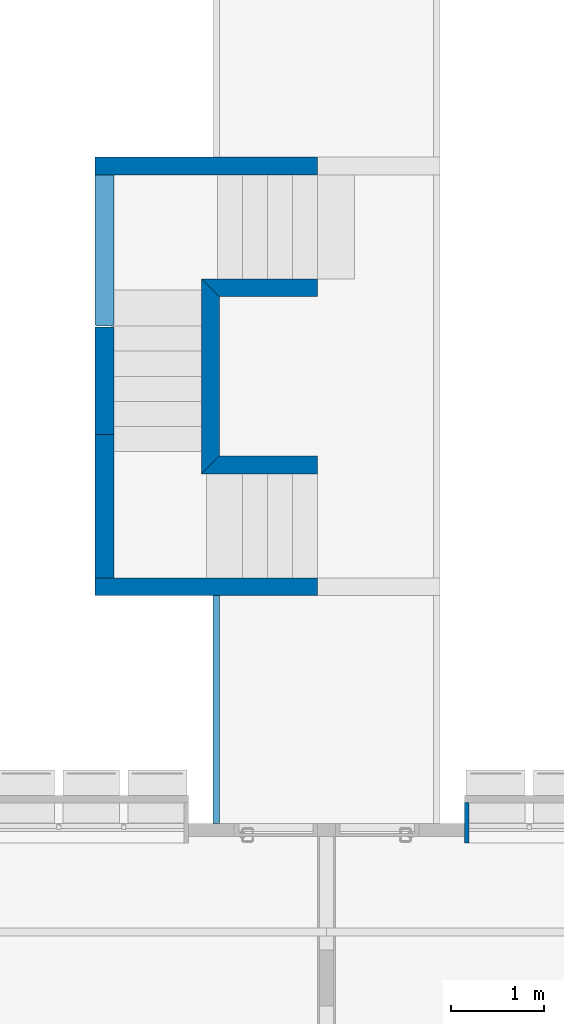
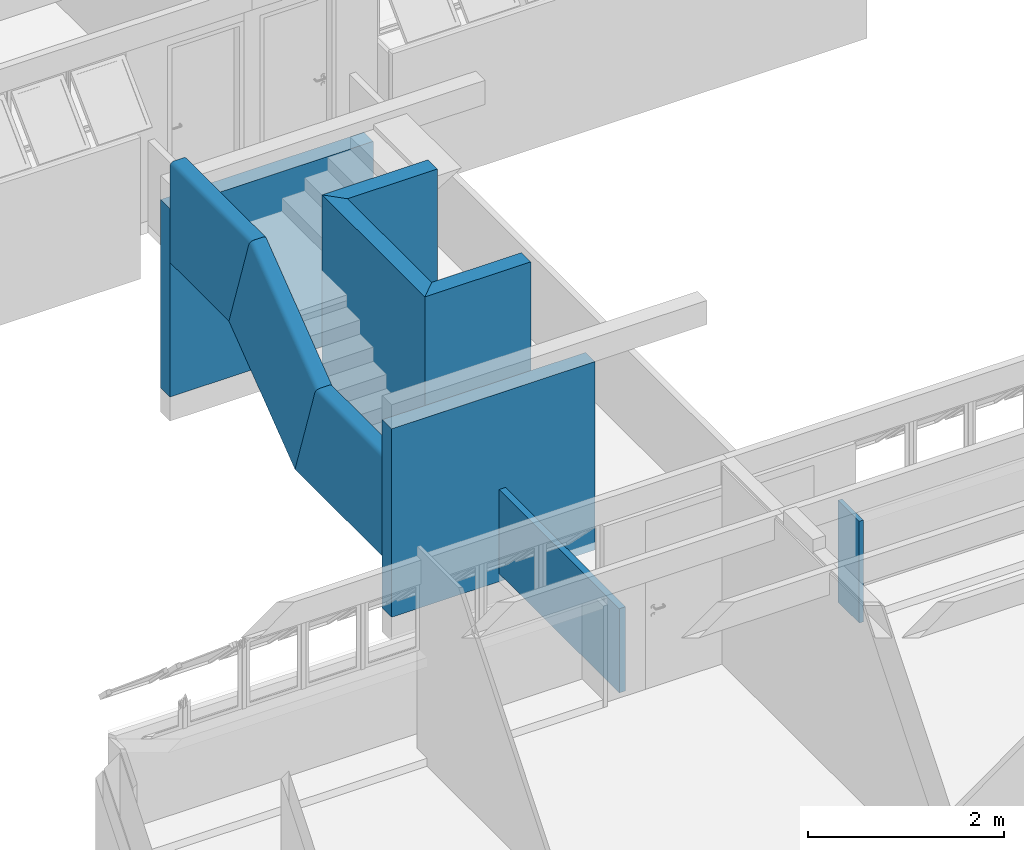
# One storey, part 28 of 40: 10 walls, 1 element without a shape of its own.
"""IFC4 building model written with IfcOpenShell, lengths in millimetres."""

from ifc_helpers import new_model, entity, si_unit, converted_unit, derived_unit, direction, frame, origin_with_axes, place, context, subcontext, project, spatial, line, indexed_curve, outline, extrude, polygons, source, transform, mapped, material, layer, layer_set, layer_usage, type_object, element, aggregate, save


model = new_model("IFC4")

# Units and contexts
model_context = context("Model", 3, precision=0.01, world=origin_with_axes(), true_north=direction((0.0, 1.0)))
body_context = subcontext(model_context, "Body", "Model", "MODEL_VIEW")
ifc_project = project(units=[si_unit("LENGTHUNIT", "METRE", prefix="MILLI"), si_unit("AREAUNIT", "SQUARE_METRE"), si_unit("VOLUMEUNIT", "CUBIC_METRE"), converted_unit("PLANEANGLEUNIT", "DEGREE", entity("IfcPlaneAngleMeasure", 0.0174532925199), si_unit("PLANEANGLEUNIT", "RADIAN"), dimensions=[0, 0, 0, 0, 0, 0, 0]), converted_unit("TIMEUNIT", "Year", entity("IfcTimeMeasure", 31556926.0), si_unit("TIMEUNIT", "SECOND"), dimensions=[0, 0, 1, 0, 0, 0, 0]), si_unit("MASSUNIT", "GRAM", prefix="KILO"), si_unit("THERMODYNAMICTEMPERATUREUNIT", "DEGREE_CELSIUS"), si_unit("LUMINOUSINTENSITYUNIT", "LUMEN"), si_unit("ENERGYUNIT", "JOULE", prefix="MEGA"), derived_unit("THERMALCONDUCTANCEUNIT", [(si_unit("POWERUNIT", "WATT"), 1), (si_unit("LENGTHUNIT", "METRE"), -1), (si_unit("THERMODYNAMICTEMPERATUREUNIT", "KELVIN"), -1)]), derived_unit("SPECIFICHEATCAPACITYUNIT", [(si_unit("ENERGYUNIT", "JOULE"), 1), (si_unit("MASSUNIT", "GRAM", prefix="KILO"), -1), (si_unit("THERMODYNAMICTEMPERATUREUNIT", "KELVIN"), -1)]), derived_unit("MASSDENSITYUNIT", [(si_unit("MASSUNIT", "GRAM", prefix="KILO"), 1), (si_unit("VOLUMEUNIT", "CUBIC_METRE"), -1)])], contexts=[model_context])

# Site, building, storey
site_placement = place(None, origin_with_axes())
site = spatial("IfcSite", under=ifc_project, at=site_placement, Name="Local", CompositionType="ELEMENT")
building_placement = place(site_placement, origin_with_axes())
building = spatial("IfcBuilding", under=site, at=building_placement, Name="Construção", CompositionType="ELEMENT")
storey_placement = place(building_placement, origin_with_axes())
storey = spatial("IfcBuildingStorey", under=building, at=storey_placement, Name="Primeiro Pavimento", CompositionType="ELEMENT", Elevation=0.0)

# Walls
ifc_material_1 = material(Name="GENÉRICO - VEDAÇÃO EXTERNA")
ifc_layer_1 = layer(ifc_material_1, 190.0, ventilated="UNKNOWN", Name="GENÉRICO - VEDAÇÃO EXTERNA")
ifc_layer_set_1 = layer_set([ifc_layer_1], Name="GENÉRICO - VEDAÇÃO EXTERNA 190")
ifc_layer_usage_1 = layer_usage(ifc_layer_set_1, "AXIS2", "NEGATIVE", 0.0)
wall_type_1 = type_object("IfcWallType", Name="GENÉRICO - VEDAÇÃO EXTERNA 190", PredefinedType="NOTDEFINED")
wall_1_placement = place(storey_placement, frame((4890.0, 10910.0, -150.0), z_axis=(0.0, 0.0, 1.0), x_axis=(1.0, 0.0, 0.0)))
element("IfcWall", 1, at=wall_1_placement, inside=storey, type_object=wall_type_1, material=ifc_layer_usage_1, Name="CIRC1-PAREDE-021", PredefinedType="NOTDEFINED", context=body_context, shape_type="SweptSolid", body=[
    extrude(outline(indexed_curve([(0.0, -190.0), (2400.0, -190.0), (2400.0, 0.0), (0.0, 0.0)], segments=[line(1, 2, 3, 4, 1)])), origin_with_axes(), (0.0, 0.0, 1.0), 2350.0),
])
ifc_layer_usage_2 = layer_usage(ifc_layer_set_1, "AXIS2", "NEGATIVE", 0.0)
wall_2_placement = place(storey_placement, frame((4890.0, 15440.0, -150.0), z_axis=(0.0, 0.0, 1.0), x_axis=(1.0, 0.0, 0.0)))
element("IfcWall", 2, at=wall_2_placement, inside=storey, type_object=wall_type_1, material=ifc_layer_usage_2, Name="CIRC1-PAREDE-020", PredefinedType="NOTDEFINED", context=body_context, shape_type="SweptSolid", body=[
    extrude(outline(indexed_curve([(0.0, -190.0), (2400.0, -190.0), (2400.0, 0.0), (0.0, 0.0)], segments=[line(1, 2, 3, 4, 1)])), origin_with_axes(), (0.0, 0.0, 1.0), 2350.0),
])
ifc_material_2 = material(Name="Concreto Armado Moldado in Loco - Estrutural")
ifc_layer_2 = layer(ifc_material_2, 190.0, ventilated="UNKNOWN", Name="Concreto Armado Moldado in Loco - Estrutural")
ifc_layer_set_2 = layer_set([ifc_layer_2], Name="Concreto Armado Moldado in Loco - Estrutural 190")
ifc_layer_usage_3 = layer_usage(ifc_layer_set_2, "AXIS2", "NEGATIVE", 0.0)
wall_type_2 = type_object("IfcWallType", Name="Concreto Armado Moldado in Loco - Estrutural 190", PredefinedType="NOTDEFINED")
wall_3_placement = place(storey_placement, frame((6230.0, 12220.0, -50.0), z_axis=(0.0, 0.0, 1.0), x_axis=(1.0, 0.0, 0.0)))
element("IfcWall", 3, at=wall_3_placement, inside=storey, type_object=wall_type_2, material=ifc_layer_usage_3, Name="CIRC1-PAREDE-023", PredefinedType="NOTDEFINED", context=body_context, shape_type="SweptSolid", body=[
    extrude(outline(indexed_curve([(-190.0, -190.0), (1060.0, -190.0), (1060.0, 0.0), (0.0, 0.0)], segments=[line(1, 2, 3, 4, 1)])), origin_with_axes(), (0.0, 0.0, 1.0), 2700.0),
])
ifc_layer_usage_4 = layer_usage(ifc_layer_set_2, "AXIS2", "NEGATIVE", 0.0)
wall_4_placement = place(storey_placement, frame((6230.0, 13940.0, -50.0), z_axis=(0.0, 0.0, 1.0), x_axis=(0.0, -1.0, 0.0)))
element("IfcWall", 4, at=wall_4_placement, inside=storey, type_object=wall_type_2, material=ifc_layer_usage_4, Name="CIRC1-PAREDE-022", PredefinedType="NOTDEFINED", context=body_context, shape_type="SweptSolid", body=[
    extrude(outline(indexed_curve([(-190.0, -190.0), (1910.0, -190.0), (1720.0, 0.0), (0.0, 0.0)], segments=[line(1, 2, 3, 4, 1)])), origin_with_axes(), (0.0, 0.0, 1.0), 2700.0),
])
ifc_layer_usage_5 = layer_usage(ifc_layer_set_2, "AXIS2", "NEGATIVE", 0.0)
wall_5_placement = place(storey_placement, frame((7290.0, 13940.0, -50.0), z_axis=(0.0, 0.0, 1.0), x_axis=(-1.0, 0.0, 0.0)))
element("IfcWall", 5, at=wall_5_placement, inside=storey, type_object=wall_type_2, material=ifc_layer_usage_5, Name="CIRC1-PAREDE-024", PredefinedType="NOTDEFINED", context=body_context, shape_type="SweptSolid", body=[
    extrude(outline(indexed_curve([(0.0, -190.0), (1250.0, -190.0), (1060.0, 0.0), (0.0, 0.0)], segments=[line(1, 2, 3, 4, 1)])), origin_with_axes(), (0.0, 0.0, 1.0), 2700.0),
])

# Railing, walls
railing_type = type_object("IfcRailingType", Name="Tipo de Guarda-Corpo", PredefinedType="NOTDEFINED")
railing_placement = place(storey_placement, frame((4890.0, 10910.0, 500.0), z_axis=(0.0, 0.0, 1.0), x_axis=(1.0, 0.0, 0.0)))
railing = element("IfcRailing", 6, at=railing_placement, inside=storey, type_object=railing_type, Name="CIRC1-GC-002", PredefinedType="NOTDEFINED")
ifc_material_3 = material(Name="Concreto")
wall_type_3 = type_object("IfcWallType", Name="IfcWall", PredefinedType="NOTDEFINED")
shared_shape_1 = source(origin_with_axes(), body_context, "Body", "Tessellation", [
    polygons([(102.555801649, 0.0, 1250.0), (155.222345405, 0.0, 1250.0), (155.222345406, 1360.0, 1250.0), (102.555801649, 1360.0, 1250.0), (102.555801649, 0.0, 0.0), (205.111603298, 0.0, 0.0), (205.111603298, 0.0, 1203.32595053), (203.863102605, 0.0, 1211.57915105), (201.259002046, 0.0, 1219.50964493), (197.371876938, 0.0, 1226.89641224), (192.310060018, 0.0, 1233.53358652), (186.214622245, 0.0, 1239.23619217), (179.255441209, 0.0, 1243.8452997), (171.626466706, 0.0, 1247.23245499), (163.540315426, 0.0, 1249.30325927), (163.540315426, 1360.23554641, 1249.30325927), (171.626466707, 1360.93562106, 1247.23245499), (179.25544121, 1362.08071312, 1243.8452997), (186.214622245, 1363.6389093, 1239.23619217), (192.310060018, 1365.56678325, 1233.53358652), (197.371876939, 1367.81060584, 1226.89641224), (201.259002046, 1370.30784257, 1219.50964493), (203.863102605, 1372.98889638, 1211.57915105), (205.111603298, 1375.77904728, 1203.32595053), (205.111603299, 1782.58619778, 0.0), (102.555801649, 1782.58619778, 0.0)], [[[1, 2, 3, 4]], [[1, 5, 6, 7, 8, 9, 10, 11, 12, 13, 14, 15, 2]], [[2, 15, 16, 3]], [[4, 3, 16, 17, 18, 19, 20, 21, 22, 23, 24, 25, 26]], [[5, 1, 4, 26]], [[6, 5, 26, 25]], [[7, 6, 25, 24]], [[8, 7, 24, 23]], [[9, 8, 23, 22]], [[10, 9, 22, 21]], [[11, 10, 21, 20]], [[12, 11, 20, 19]], [[13, 12, 19, 18]], [[14, 13, 18, 17]], [[15, 14, 17, 16]]], closed=True),
    polygons([(102.555801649, 0.0, 0.0), (0.0, 0.0, 0.0), (2.67611799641e-10, 1782.58619778, 0.0), (102.555801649, 1782.58619778, 0.0), (102.555801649, 0.0, 1250.0), (49.8892578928, 0.0, 1250.0), (41.5712878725, 0.0, 1249.30325927), (33.485136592, 0.0, 1247.23245499), (25.8561620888, 0.0, 1243.8452997), (18.8969810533, 0.0, 1239.23619217), (12.8015432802, 0.0, 1233.53358652), (7.73972635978, 0.0, 1226.89641224), (3.85260125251, 0.0, 1219.50964493), (1.24850069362, 0.0, 1211.57915105), (0.0, 0.0, 1203.32595053), (2.06578442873e-10, 1375.77904728, 1203.32595053), (1.24850069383, 1372.98889638, 1211.57915105), (3.85260125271, 1370.30784257, 1219.50964493), (7.73972635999, 1367.81060584, 1226.89641224), (12.8015432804, 1365.56678325, 1233.53358652), (18.8969810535, 1363.6389093, 1239.23619217), (25.856162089, 1362.08071312, 1243.8452997), (33.4851365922, 1360.93562106, 1247.23245499), (41.5712878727, 1360.23554641, 1249.30325927), (49.889257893, 1360.0, 1250.0), (102.555801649, 1360.0, 1250.0)], [[[1, 2, 3, 4]], [[1, 5, 6, 7, 8, 9, 10, 11, 12, 13, 14, 15, 2]], [[2, 15, 16, 3]], [[4, 3, 16, 17, 18, 19, 20, 21, 22, 23, 24, 25, 26]], [[5, 1, 4, 26]], [[6, 5, 26, 25]], [[7, 6, 25, 24]], [[8, 7, 24, 23]], [[9, 8, 23, 22]], [[10, 9, 22, 21]], [[11, 10, 21, 20]], [[12, 11, 20, 19]], [[13, 12, 19, 18]], [[14, 13, 18, 17]], [[15, 14, 17, 16]]], closed=True),
])
wall_6_placement = place(railing_placement, frame((1.02140518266e-10, 680.0, -16.7165309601), z_axis=(0.0, 0.0, 1.0), x_axis=(1.0, 0.0, 0.0)))
wall_6 = element("IfcWall", 7, at=wall_6_placement, type_object=wall_type_3, material=ifc_material_3, Name="CIRC1-GC - Barra Superior - 001", PredefinedType="NOTDEFINED", context=body_context, shape_type="MappedRepresentation", body=[
    mapped(shared_shape_1, transform((-1.02140518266e-10, -680.0, 16.7165309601))),
])
shared_shape_2 = source(origin_with_axes(), body_context, "Body", "Tessellation", [
    polygons([(102.555801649, 0.0, 1250.0), (155.222345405, 0.0, 1250.0), (155.222345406, 1350.0, 2280.57075871), (102.555801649, 1350.0, 2280.57075871), (102.555801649, 422.586197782, 0.0), (205.111603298, 422.586197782, 0.0), (205.111603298, 15.7790472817, 1203.32595053), (203.863102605, 12.9888963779, 1211.57915105), (201.259002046, 10.3078425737, 1219.50964493), (197.371876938, 7.81060584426, 1226.89641224), (192.310060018, 5.56678325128, 1233.53358652), (186.214622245, 3.6389092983, 1239.23619217), (179.255441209, 2.08071311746, 1243.8452997), (171.626466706, 0.935621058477, 1247.23245499), (163.540315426, 0.235546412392, 1249.30325927), (163.540315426, 1350.23554641, 2279.87401798), (171.626466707, 1350.93562106, 2277.8032137), (179.25544121, 1352.08071312, 2274.41605841), (186.214622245, 1353.6389093, 2269.80695088), (192.310060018, 1355.56678325, 2264.10434523), (197.371876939, 1357.81060584, 2257.46717095), (201.259002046, 1360.30784257, 2250.08040364), (203.863102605, 1362.98889638, 2242.14990976), (205.111603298, 1365.77904728, 2233.89670923), (205.111603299, 1772.58619778, 1030.57075871), (102.555801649, 1772.58619778, 1030.57075871)], [[[1, 2, 3, 4]], [[1, 5, 6, 7, 8, 9, 10, 11, 12, 13, 14, 15, 2]], [[2, 15, 16, 3]], [[4, 3, 16, 17, 18, 19, 20, 21, 22, 23, 24, 25, 26]], [[5, 1, 4, 26]], [[6, 5, 26, 25]], [[7, 6, 25, 24]], [[8, 7, 24, 23]], [[9, 8, 23, 22]], [[10, 9, 22, 21]], [[11, 10, 21, 20]], [[12, 11, 20, 19]], [[13, 12, 19, 18]], [[14, 13, 18, 17]], [[15, 14, 17, 16]]], closed=True),
    polygons([(102.555801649, 422.586197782, 0.0), (0.0, 422.586197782, 0.0), (2.65861798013e-10, 1772.58619778, 1030.57075871), (102.555801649, 1772.58619778, 1030.57075871), (102.555801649, 0.0, 1250.0), (49.8892578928, 0.0, 1250.0), (41.5712878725, 0.23554641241, 1249.30325927), (33.485136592, 0.935621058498, 1247.23245499), (25.8561620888, 2.08071311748, 1243.8452997), (18.8969810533, 3.63890929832, 1239.23619217), (12.8015432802, 5.5667832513, 1233.53358652), (7.73972635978, 7.81060584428, 1226.89641224), (3.85260125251, 10.3078425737, 1219.50964493), (1.24850069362, 12.9888963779, 1211.57915105), (0.0, 15.7790472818, 1203.32595053), (2.04803070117e-10, 1365.77904728, 2233.89670923), (1.24850069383, 1362.98889638, 2242.14990976), (3.85260125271, 1360.30784257, 2250.08040364), (7.73972635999, 1357.81060584, 2257.46717095), (12.8015432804, 1355.56678325, 2264.10434523), (18.8969810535, 1353.6389093, 2269.80695088), (25.856162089, 1352.08071312, 2274.41605841), (33.4851365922, 1350.93562106, 2277.8032137), (41.5712878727, 1350.23554641, 2279.87401798), (49.889257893, 1350.0, 2280.57075871), (102.555801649, 1350.0, 2280.57075871)], [[[1, 2, 3, 4]], [[1, 5, 6, 7, 8, 9, 10, 11, 12, 13, 14, 15, 2]], [[2, 15, 16, 3]], [[4, 3, 16, 17, 18, 19, 20, 21, 22, 23, 24, 25, 26]], [[5, 1, 4, 26]], [[6, 5, 26, 25]], [[7, 6, 25, 24]], [[8, 7, 24, 23]], [[9, 8, 23, 22]], [[10, 9, 22, 21]], [[11, 10, 21, 20]], [[12, 11, 20, 19]], [[13, 12, 19, 18]], [[14, 13, 18, 17]], [[15, 14, 17, 16]]], closed=True),
])
wall_7_placement = place(railing_placement, frame((3.05533376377e-10, 2035.0, -16.7165309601), z_axis=(0.0, 0.0, 1.0), x_axis=(1.0, 0.0, 0.0)))
wall_7 = element("IfcWall", 8, at=wall_7_placement, type_object=wall_type_3, material=ifc_material_3, Name="CIRC1-GC - Barra Superior - 001", PredefinedType="NOTDEFINED", context=body_context, shape_type="MappedRepresentation", body=[
    mapped(shared_shape_2, transform((-1.01252339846e-10, -675.0, 16.7165309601))),
])
shared_shape_3 = source(origin_with_axes(), body_context, "Body", "Tessellation", [
    polygons([(102.555801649, 0.0, 1250.0), (155.222345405, 0.0, 1250.0), (155.222345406, 1630.0, 1250.0), (102.555801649, 1630.0, 1250.0), (102.555801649, 422.586197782, 0.0), (205.111603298, 422.586197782, 0.0), (205.111603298, 15.7790472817, 1203.32595053), (203.863102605, 12.9888963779, 1211.57915105), (201.259002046, 10.3078425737, 1219.50964493), (197.371876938, 7.81060584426, 1226.89641224), (192.310060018, 5.56678325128, 1233.53358652), (186.214622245, 3.6389092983, 1239.23619217), (179.255441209, 2.08071311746, 1243.8452997), (171.626466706, 0.935621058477, 1247.23245499), (163.540315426, 0.235546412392, 1249.30325927), (163.540315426, 1630.0, 1249.30325927), (171.626466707, 1630.0, 1247.23245499), (179.25544121, 1630.0, 1243.8452997), (186.214622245, 1630.0, 1239.23619217), (192.310060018, 1630.0, 1233.53358652), (197.371876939, 1630.0, 1226.89641224), (201.259002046, 1630.0, 1219.50964493), (203.863102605, 1630.0, 1211.57915105), (205.111603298, 1630.0, 1203.32595053), (205.111603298, 1630.0, 0.0), (102.555801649, 1630.0, 0.0)], [[[1, 2, 3, 4]], [[1, 5, 6, 7, 8, 9, 10, 11, 12, 13, 14, 15, 2]], [[2, 15, 16, 3]], [[4, 3, 16, 17, 18, 19, 20, 21, 22, 23, 24, 25, 26]], [[5, 1, 4, 26]], [[6, 5, 26, 25]], [[7, 6, 25, 24]], [[8, 7, 24, 23]], [[9, 8, 23, 22]], [[10, 9, 22, 21]], [[11, 10, 21, 20]], [[12, 11, 20, 19]], [[13, 12, 19, 18]], [[14, 13, 18, 17]], [[15, 14, 17, 16]]], closed=True),
    polygons([(102.555801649, 422.586197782, 0.0), (0.0, 422.586197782, 0.0), (2.45081732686e-10, 1630.0, 0.0), (102.555801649, 1630.0, 0.0), (102.555801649, 0.0, 1250.0), (49.8892578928, 0.0, 1250.0), (41.5712878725, 0.23554641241, 1249.30325927), (33.485136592, 0.935621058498, 1247.23245499), (25.8561620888, 2.08071311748, 1243.8452997), (18.8969810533, 3.63890929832, 1239.23619217), (12.8015432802, 5.5667832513, 1233.53358652), (7.73972635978, 7.81060584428, 1226.89641224), (3.85260125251, 10.3078425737, 1219.50964493), (1.24850069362, 12.9888963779, 1211.57915105), (0.0, 15.7790472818, 1203.32595053), (2.45067854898e-10, 1630.0, 1203.32595053), (1.24850069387, 1630.0, 1211.57915105), (3.85260125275, 1630.0, 1219.50964493), (7.73972636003, 1630.0, 1226.89641224), (12.8015432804, 1630.0, 1233.53358652), (18.8969810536, 1630.0, 1239.23619217), (25.8561620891, 1630.0, 1243.8452997), (33.4851365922, 1630.0, 1247.23245499), (41.5712878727, 1630.0, 1249.30325927), (49.8892578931, 1630.0, 1250.0), (102.555801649, 1630.0, 1250.0)], [[[1, 2, 3, 4]], [[1, 5, 6, 7, 8, 9, 10, 11, 12, 13, 14, 15, 2]], [[2, 15, 16, 3]], [[4, 3, 16, 17, 18, 19, 20, 21, 22, 23, 24, 25, 26]], [[5, 1, 4, 26]], [[6, 5, 26, 25]], [[7, 6, 25, 24]], [[8, 7, 24, 23]], [[9, 8, 23, 22]], [[10, 9, 22, 21]], [[11, 10, 21, 20]], [[12, 11, 20, 19]], [[13, 12, 19, 18]], [[14, 13, 18, 17]], [[15, 14, 17, 16]]], closed=True),
])
wall_8_placement = place(railing_placement, frame((5.29354338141e-10, 3525.0, 1013.85422775), z_axis=(0.0, 0.0, 1.0), x_axis=(1.0, 0.0, 0.0)))
wall_8 = element("IfcWall", 9, at=wall_8_placement, type_object=wall_type_3, material=ifc_material_3, Name="CIRC1-GC - Barra Superior - 001", PredefinedType="NOTDEFINED", context=body_context, shape_type="MappedRepresentation", body=[
    mapped(shared_shape_3, transform((-1.22568621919e-10, -815.0, 16.7165309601))),
])
aggregate(railing, [wall_6, wall_7, wall_8])

# Walls
ifc_layer_3 = layer(ifc_material_2, 50.0, ventilated="UNKNOWN", Name="Concreto Armado Moldado in Loco - Estrutural")
ifc_layer_set_3 = layer_set([ifc_layer_3], Name="Concreto Armado Moldado in Loco - Estrutural 50")
ifc_layer_usage_6 = layer_usage(ifc_layer_set_3, "AXIS2", "NEGATIVE", 50.0)
wall_type_4 = type_object("IfcWallType", Name="Concreto Armado Moldado in Loco - Estrutural 50", PredefinedType="NOTDEFINED")
wall_9_placement = place(storey_placement, frame((8920.0, 8054.99999866, 0.0), z_axis=(0.0, 0.0, 1.0), x_axis=(0.0, 1.0, 0.0)))
element("IfcWall", 10, at=wall_9_placement, inside=storey, type_object=wall_type_4, material=ifc_layer_usage_6, Name="APTO2-PAREDE-016", PredefinedType="NOTDEFINED", context=body_context, shape_type="SweptSolid", body=[
    extrude(outline(indexed_curve([(0.0, 0.0), (435.0, 0.0), (435.0, 50.0), (0.0, 50.0)], segments=[line(1, 2, 3, 4, 1)])), origin_with_axes(), (0.0, 0.0, 1.0), 1270.0),
])
ifc_layer_4 = layer(ifc_material_1, 75.0, ventilated="UNKNOWN", Name="GENÉRICO - VEDAÇÃO EXTERNA")
ifc_layer_set_4 = layer_set([ifc_layer_4], Name="GENÉRICO - VEDAÇÃO EXTERNA 75")
ifc_layer_usage_7 = layer_usage(ifc_layer_set_4, "AXIS2", "NEGATIVE", 0.0)
wall_type_5 = type_object("IfcWallType", Name="GENÉRICO - VEDAÇÃO EXTERNA 75", PredefinedType="NOTDEFINED")
wall_10_placement = place(storey_placement, frame((6160.0, 8265.0, -50.0), z_axis=(0.0, 0.0, 1.0), x_axis=(0.0, 1.0, 0.0)))
element("IfcWall", 11, at=wall_10_placement, inside=storey, type_object=wall_type_5, material=ifc_layer_usage_7, Name="CIRC1-PAREDE-025", PredefinedType="NOTDEFINED", context=body_context, shape_type="SweptSolid", body=[
    extrude(outline(indexed_curve([(0.0, -75.0), (2455.0, -75.0), (2455.0, 0.0), (0.0, 0.0)], segments=[line(1, 2, 3, 4, 1)])), origin_with_axes(), (0.0, 0.0, 1.0), 1050.0),
])

save(model, "model.ifc")
